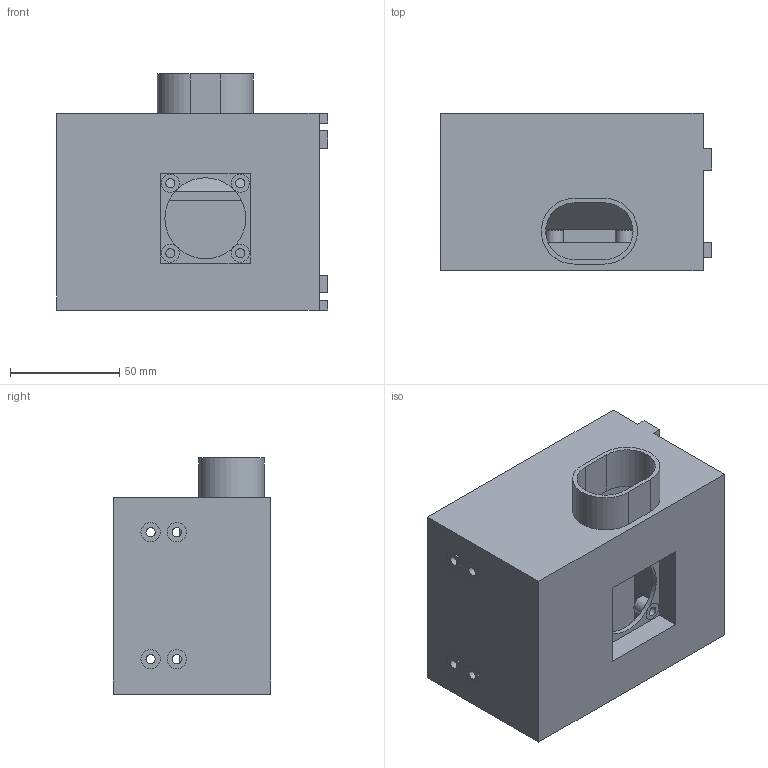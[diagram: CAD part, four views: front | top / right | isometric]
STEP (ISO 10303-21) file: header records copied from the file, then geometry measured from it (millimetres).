
FILE_DESCRIPTION(('Open CASCADE Model'),'2;1');
FILE_NAME('Open CASCADE Shape Model','2026-08-16T15:13:29',('Author'),( 'Open CASCADE'),'Open CASCADE STEP processor 7.9','Open CASCADE 7.9' ,'Unknown');
FILE_SCHEMA(('AUTOMOTIVE_DESIGN { 1 0 10303 214 1 1 1 1 }'));
Length unit declared in the file: millimetre
Products named in the file (1): Open CASCADE STEP translator 7.9 1
Bounding box: 124.2 x 72.1 x 108 mm (x, y, z)
Volume: 135399.1 mm3; surface area: 115591.8 mm2
Topology: 1 solids, 1 shells, 173 faces, 423 edges, 282 vertices
Faces by surface type: plane 125, cylinder 48
Full cylindrical faces by diameter (mm): 4.2 x17, 8.2 x9, 8.4 x2, 8.6 x2, 8.8 x8, 9.2 x5, 37 x1
Entity records: 10428 total; most frequent: CARTESIAN_POINT 1991, DIRECTION 1495, ORIENTED_EDGE 846, PCURVE 846, DEFINITIONAL_REPRESENTATION 846, LINE 779, VECTOR 779, EDGE_CURVE 423
